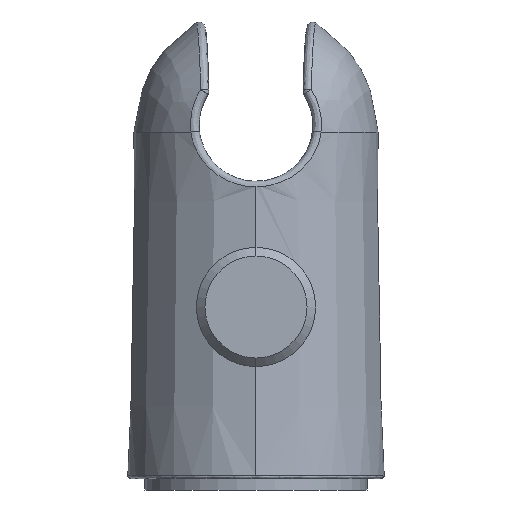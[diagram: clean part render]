
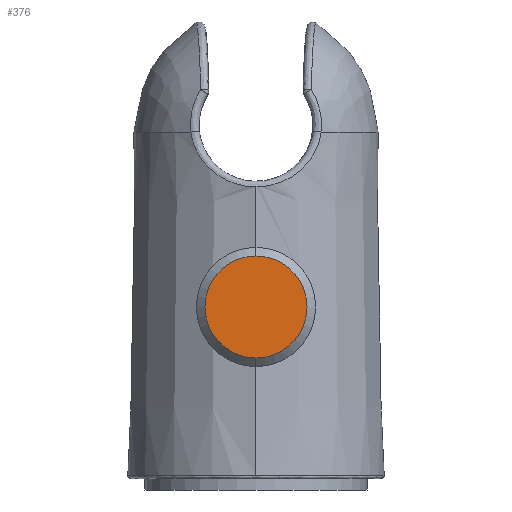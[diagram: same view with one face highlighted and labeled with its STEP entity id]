
A CAD part, front view. The second image highlights one B-rep face of the part: STEP entity #376.
In plain terms, the highlighted planar face has unit normal (0, -1, 0).
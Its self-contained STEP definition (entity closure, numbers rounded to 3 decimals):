
#28 = AXIS2_PLACEMENT_3D ( 'NONE', #736, #55, #1206 ) ;
#55 = DIRECTION ( 'NONE',  ( 0., -1., 0. ) ) ;
#140 = CARTESIAN_POINT ( 'NONE',  ( 0., -23., 8.95 ) ) ;
#196 = CARTESIAN_POINT ( 'NONE',  ( 0., -23., -8.95 ) ) ;
#300 = DIRECTION ( 'NONE',  ( 0., -1., 0. ) ) ;
#376 = ADVANCED_FACE ( 'NONE', ( #2735 ), #1106, .T. ) ;
#395 = VERTEX_POINT ( 'NONE', #140 ) ;
#606 = CIRCLE ( 'NONE', #28, 8.95 ) ;
#736 = CARTESIAN_POINT ( 'NONE',  ( 0., -23., 0. ) ) ;
#1106 = PLANE ( 'NONE',  #2364 ) ;
#1206 = DIRECTION ( 'NONE',  ( 0., 0., 1. ) ) ;
#1226 = ORIENTED_EDGE ( 'NONE', *, *, #1906, .T. ) ;
#1248 = CARTESIAN_POINT ( 'NONE',  ( 0., -23., 0. ) ) ;
#1324 = DIRECTION ( 'NONE',  ( 0., 0., -1. ) ) ;
#1569 = DIRECTION ( 'NONE',  ( 0., -1., 0. ) ) ;
#1886 = CIRCLE ( 'NONE', #2334, 8.95 ) ;
#1906 = EDGE_CURVE ( 'NONE', #395, #1962, #606, .T. ) ;
#1928 = DIRECTION ( 'NONE',  ( 0., 0., 1. ) ) ;
#1962 = VERTEX_POINT ( 'NONE', #196 ) ;
#2157 = EDGE_CURVE ( 'NONE', #1962, #395, #1886, .T. ) ;
#2334 = AXIS2_PLACEMENT_3D ( 'NONE', #1248, #300, #1928 ) ;
#2364 = AXIS2_PLACEMENT_3D ( 'NONE', #3004, #1569, #1324 ) ;
#2735 = FACE_OUTER_BOUND ( 'NONE', #2828, .T. ) ;
#2780 = ORIENTED_EDGE ( 'NONE', *, *, #2157, .T. ) ;
#2828 = EDGE_LOOP ( 'NONE', ( #1226, #2780 ) ) ;
#3004 = CARTESIAN_POINT ( 'NONE',  ( 0., -23., 0. ) ) ;
